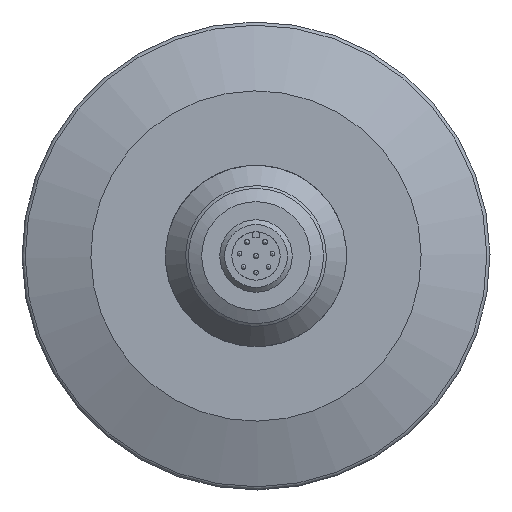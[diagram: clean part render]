
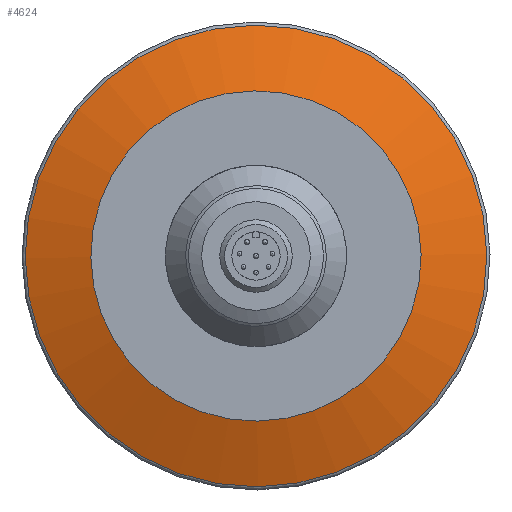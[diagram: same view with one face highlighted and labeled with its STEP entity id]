
A CAD part, front view. The second image highlights one B-rep face of the part: STEP entity #4624.
In plain terms, the highlighted conical face has half-angle 70 degrees and reference radius 38.224 mm.
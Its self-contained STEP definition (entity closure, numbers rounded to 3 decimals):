
#350=CONICAL_SURFACE('',#4816,38.224,1.222);
#1446=ORIENTED_EDGE('',*,*,#1979,.T.);
#1447=ORIENTED_EDGE('',*,*,#1980,.T.);
#1979=EDGE_CURVE('',#2315,#2315,#2419,.T.);
#1980=EDGE_CURVE('',#2316,#2316,#2420,.T.);
#2315=VERTEX_POINT('',#10137);
#2316=VERTEX_POINT('',#10140);
#2419=CIRCLE('',#4815,38.224);
#2420=CIRCLE('',#4817,27.348);
#2672=EDGE_LOOP('',(#1446));
#2673=EDGE_LOOP('',(#1447));
#2940=FACE_BOUND('',#2672,.T.);
#2941=FACE_BOUND('',#2673,.T.);
#4624=ADVANCED_FACE('',(#2940,#2941),#350,.T.);
#4815=AXIS2_PLACEMENT_3D('',#10136,#5299,#5300);
#4816=AXIS2_PLACEMENT_3D('',#10138,#5301,#5302);
#4817=AXIS2_PLACEMENT_3D('',#10139,#5303,#5304);
#5299=DIRECTION('',(0.,-1.,0.));
#5300=DIRECTION('',(0.771,0.,-0.637));
#5301=DIRECTION('',(0.,1.,0.));
#5302=DIRECTION('',(0.771,0.,-0.637));
#5303=DIRECTION('',(0.,1.,0.));
#5304=DIRECTION('',(0.771,0.,-0.637));
#10136=CARTESIAN_POINT('',(0.,1.953,0.));
#10137=CARTESIAN_POINT('',(29.476,1.953,-24.335));
#10138=CARTESIAN_POINT('',(0.,1.953,0.));
#10139=CARTESIAN_POINT('',(0.,-2.005,0.));
#10140=CARTESIAN_POINT('',(21.089,-2.005,-17.411));
